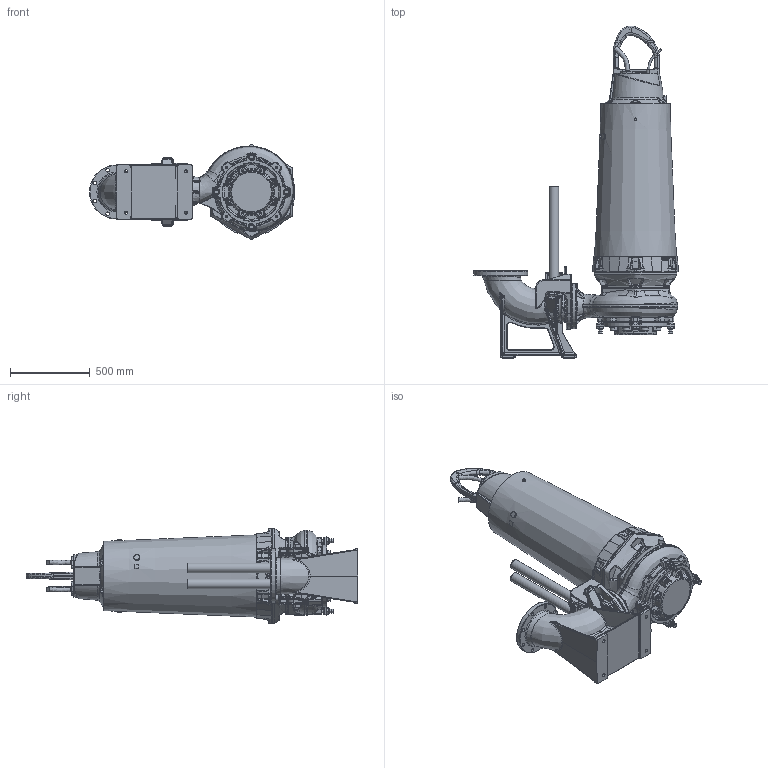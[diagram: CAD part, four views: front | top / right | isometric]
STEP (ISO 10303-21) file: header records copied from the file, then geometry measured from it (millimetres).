
FILE_DESCRIPTION (( 'STEP AP203' ), '1' );
FILE_NAME ('PE5_XFP155J-CB2_WET 2guide_NG2_DN 150-200_B.STEP', '2022-04-05T11:25:28', ( '' ), ( '' ), 'SwSTEP 2.0', 'SolidWorks 2017', '' );
FILE_SCHEMA (( 'CONFIG_CONTROL_DESIGN' ));
Products named in the file (2): PE5_XFP155J-CB2_WET 2guide_NG2_DN 150-200_B
Bounding box: 1286.29 x 2083.05 x 595.59 mm (x, y, z)
Volume: 312243099.1 mm3; surface area: 5684105.2 mm2
Topology: 12 solids, 25 shells, 4385 faces, 10982 edges, 6511 vertices
Faces by surface type: bspline 1716, plane 1059, cylinder 960, cone 383, torus 163, sphere 104
Full cylindrical faces by diameter (mm): 8.5 x4, 10 x5, 10.2 x2, 11 x9, 11.5 x1, 14 x8, 16 x4, 17 x4, 17.5 x10, 19 x5, 20 x5, 22 x2, 23 x16, 25 x2, 27.5 x2, 35 x8, 36 x9, 53 x2, 56 x2, 60.3 x2, 340 x1, 383.6 x1, 392 x2
Entity records: 283110 total; most frequent: CARTESIAN_POINT 195127, ORIENTED_EDGE 21022, DIRECTION 14476, EDGE_CURVE 10511, VERTEX_POINT 6401, AXIS2_PLACEMENT_3D 5775, EDGE_LOOP 4736, FACE_OUTER_BOUND 4532
